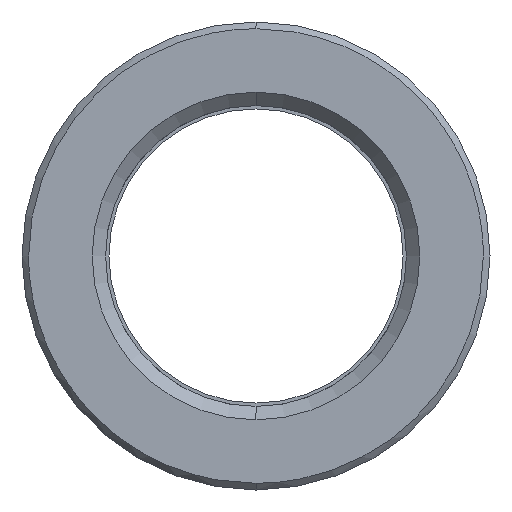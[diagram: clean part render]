
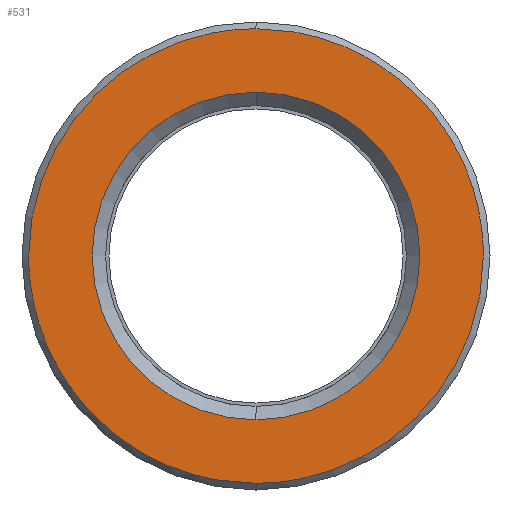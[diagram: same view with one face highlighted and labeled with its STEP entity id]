
A CAD part, left-side view. The second image highlights one B-rep face of the part: STEP entity #531.
In plain terms, the highlighted planar face has unit normal (-1, 0, 0).
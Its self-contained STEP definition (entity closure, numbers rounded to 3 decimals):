
#311=CARTESIAN_POINT('Axis2P3D Location',(0.,0.,0.)) ;
#315=CARTESIAN_POINT('Vertex',(0.,12.25,0.)) ;
#317=CARTESIAN_POINT('Vertex',(0.,0.,12.25)) ;
#320=CARTESIAN_POINT('Axis2P3D Location',(0.,0.,0.)) ;
#324=CARTESIAN_POINT('Vertex',(0.,0.,-12.25)) ;
#351=CARTESIAN_POINT('Axis2P3D Location',(0.,0.,0.)) ;
#355=CARTESIAN_POINT('Vertex',(0.,-12.25,0.)) ;
#358=CARTESIAN_POINT('Axis2P3D Location',(0.,0.,0.)) ;
#438=CARTESIAN_POINT('Axis2P3D Location',(0.,17.,0.)) ;
#444=CARTESIAN_POINT('Control Point',(0.,0.,-17.)) ;
#445=CARTESIAN_POINT('Control Point',(0.,1.123,-17.)) ;
#446=CARTESIAN_POINT('Control Point',(0.,2.246,-16.907)) ;
#447=CARTESIAN_POINT('Control Point',(0.,3.359,-16.722)) ;
#448=CARTESIAN_POINT('Control Point',(0.,6.023,-16.047)) ;
#449=CARTESIAN_POINT('Control Point',(0.,8.508,-14.851)) ;
#450=CARTESIAN_POINT('Control Point',(0.,9.884,-13.974)) ;
#451=CARTESIAN_POINT('Control Point',(0.,12.399,-11.909)) ;
#452=CARTESIAN_POINT('Control Point',(0.,14.361,-9.312)) ;
#453=CARTESIAN_POINT('Control Point',(0.,15.182,-7.903)) ;
#454=CARTESIAN_POINT('Control Point',(0.,16.222,-5.498)) ;
#455=CARTESIAN_POINT('Control Point',(0.,16.786,-2.951)) ;
#456=CARTESIAN_POINT('Control Point',(0.,16.929,-1.972)) ;
#457=CARTESIAN_POINT('Control Point',(0.,17.,-0.986)) ;
#458=CARTESIAN_POINT('Control Point',(0.,17.,0.)) ;
#459=CARTESIAN_POINT('Vertex',(0.,0.,-17.)) ;
#461=CARTESIAN_POINT('Vertex',(0.,17.,0.)) ;
#465=CARTESIAN_POINT('Control Point',(0.,-17.,0.)) ;
#466=CARTESIAN_POINT('Control Point',(0.,-17.,-1.616)) ;
#467=CARTESIAN_POINT('Control Point',(0.,-16.808,-3.232)) ;
#468=CARTESIAN_POINT('Control Point',(0.,-16.424,-4.817)) ;
#469=CARTESIAN_POINT('Control Point',(0.,-15.287,-7.867)) ;
#470=CARTESIAN_POINT('Control Point',(0.,-13.466,-10.565)) ;
#471=CARTESIAN_POINT('Control Point',(0.,-12.399,-11.799)) ;
#472=CARTESIAN_POINT('Control Point',(0.,-9.993,-13.99)) ;
#473=CARTESIAN_POINT('Control Point',(0.,-7.14,-15.556)) ;
#474=CARTESIAN_POINT('Control Point',(0.,-5.626,-16.165)) ;
#475=CARTESIAN_POINT('Control Point',(0.,-3.576,-16.717)) ;
#476=CARTESIAN_POINT('Control Point',(0.,-1.478,-16.946)) ;
#477=CARTESIAN_POINT('Control Point',(0.,-0.986,-16.982)) ;
#478=CARTESIAN_POINT('Control Point',(0.,-0.493,-17.)) ;
#479=CARTESIAN_POINT('Control Point',(0.,0.,-17.)) ;
#480=CARTESIAN_POINT('Vertex',(0.,-17.,0.)) ;
#484=CARTESIAN_POINT('Control Point',(0.,0.,17.)) ;
#485=CARTESIAN_POINT('Control Point',(0.,-1.123,17.)) ;
#486=CARTESIAN_POINT('Control Point',(0.,-2.246,16.907)) ;
#487=CARTESIAN_POINT('Control Point',(0.,-3.359,16.722)) ;
#488=CARTESIAN_POINT('Control Point',(0.,-6.023,16.047)) ;
#489=CARTESIAN_POINT('Control Point',(0.,-8.508,14.851)) ;
#490=CARTESIAN_POINT('Control Point',(0.,-9.884,13.974)) ;
#491=CARTESIAN_POINT('Control Point',(0.,-12.399,11.909)) ;
#492=CARTESIAN_POINT('Control Point',(0.,-14.361,9.312)) ;
#493=CARTESIAN_POINT('Control Point',(0.,-15.182,7.903)) ;
#494=CARTESIAN_POINT('Control Point',(0.,-16.222,5.498)) ;
#495=CARTESIAN_POINT('Control Point',(0.,-16.786,2.951)) ;
#496=CARTESIAN_POINT('Control Point',(0.,-16.929,1.972)) ;
#497=CARTESIAN_POINT('Control Point',(0.,-17.,0.986)) ;
#498=CARTESIAN_POINT('Control Point',(0.,-17.,0.)) ;
#499=CARTESIAN_POINT('Vertex',(0.,0.,17.)) ;
#503=CARTESIAN_POINT('Control Point',(0.,17.,0.)) ;
#504=CARTESIAN_POINT('Control Point',(0.,17.,1.616)) ;
#505=CARTESIAN_POINT('Control Point',(0.,16.808,3.232)) ;
#506=CARTESIAN_POINT('Control Point',(0.,16.424,4.817)) ;
#507=CARTESIAN_POINT('Control Point',(0.,15.287,7.867)) ;
#508=CARTESIAN_POINT('Control Point',(0.,13.466,10.565)) ;
#509=CARTESIAN_POINT('Control Point',(0.,12.399,11.799)) ;
#510=CARTESIAN_POINT('Control Point',(0.,9.993,13.99)) ;
#511=CARTESIAN_POINT('Control Point',(0.,7.14,15.556)) ;
#512=CARTESIAN_POINT('Control Point',(0.,5.626,16.165)) ;
#513=CARTESIAN_POINT('Control Point',(0.,3.576,16.717)) ;
#514=CARTESIAN_POINT('Control Point',(0.,1.478,16.946)) ;
#515=CARTESIAN_POINT('Control Point',(0.,0.986,16.982)) ;
#516=CARTESIAN_POINT('Control Point',(0.,0.493,17.)) ;
#517=CARTESIAN_POINT('Control Point',(0.,0.,17.)) ;
#312=DIRECTION('Axis2P3D Direction',(-1.,0.,0.)) ;
#321=DIRECTION('Axis2P3D Direction',(-1.,0.,0.)) ;
#352=DIRECTION('Axis2P3D Direction',(-1.,0.,0.)) ;
#359=DIRECTION('Axis2P3D Direction',(-1.,0.,0.)) ;
#439=DIRECTION('Axis2P3D Direction',(-1.,0.,0.)) ;
#440=DIRECTION('Axis2P3D XDirection',(0.,0.,1.)) ;
#313=AXIS2_PLACEMENT_3D('Circle Axis2P3D',#311,#312,$) ;
#322=AXIS2_PLACEMENT_3D('Circle Axis2P3D',#320,#321,$) ;
#353=AXIS2_PLACEMENT_3D('Circle Axis2P3D',#351,#352,$) ;
#360=AXIS2_PLACEMENT_3D('Circle Axis2P3D',#358,#359,$) ;
#441=AXIS2_PLACEMENT_3D('Plane Axis2P3D',#438,#439,#440) ;
#520=ORIENTED_EDGE('',*,*,#463,.F.) ;
#521=ORIENTED_EDGE('',*,*,#482,.F.) ;
#522=ORIENTED_EDGE('',*,*,#501,.F.) ;
#523=ORIENTED_EDGE('',*,*,#518,.F.) ;
#526=ORIENTED_EDGE('',*,*,#319,.T.) ;
#527=ORIENTED_EDGE('',*,*,#362,.T.) ;
#528=ORIENTED_EDGE('',*,*,#357,.T.) ;
#529=ORIENTED_EDGE('',*,*,#326,.T.) ;
#530=FACE_BOUND('',#525,.T.) ;
#531=ADVANCED_FACE('553-22X116',(#524,#530),#442,.T.) ;
#443=B_SPLINE_CURVE_WITH_KNOTS('',5,(#444,#445,#446,#447,#448,#449,#450,#451,#452,#453,#454,#455,#456,#457,#458),.UNSPECIFIED.,.F.,.U.,(6,3,3,3,6),(37.764,45.705,57.131,68.557,75.528),.UNSPECIFIED.) ;
#464=B_SPLINE_CURVE_WITH_KNOTS('',5,(#465,#466,#467,#468,#469,#470,#471,#472,#473,#474,#475,#476,#477,#478,#479),.UNSPECIFIED.,.F.,.U.,(6,3,3,3,6),(0.,11.426,22.852,34.279,37.764),.UNSPECIFIED.) ;
#483=B_SPLINE_CURVE_WITH_KNOTS('',5,(#484,#485,#486,#487,#488,#489,#490,#491,#492,#493,#494,#495,#496,#497,#498),.UNSPECIFIED.,.F.,.U.,(6,3,3,3,6),(37.764,45.705,57.131,68.557,75.528),.UNSPECIFIED.) ;
#502=B_SPLINE_CURVE_WITH_KNOTS('',5,(#503,#504,#505,#506,#507,#508,#509,#510,#511,#512,#513,#514,#515,#516,#517),.UNSPECIFIED.,.F.,.U.,(6,3,3,3,6),(0.,11.426,22.852,34.279,37.764),.UNSPECIFIED.) ;
#314=CIRCLE('generated circle',#313,12.25) ;
#323=CIRCLE('generated circle',#322,12.25) ;
#354=CIRCLE('generated circle',#353,12.25) ;
#361=CIRCLE('generated circle',#360,12.25) ;
#319=EDGE_CURVE('',#316,#318,#314,.F.) ;
#326=EDGE_CURVE('',#325,#316,#323,.F.) ;
#357=EDGE_CURVE('',#356,#325,#354,.F.) ;
#362=EDGE_CURVE('',#318,#356,#361,.F.) ;
#463=EDGE_CURVE('',#460,#462,#443,.T.) ;
#482=EDGE_CURVE('',#481,#460,#464,.T.) ;
#501=EDGE_CURVE('',#500,#481,#483,.T.) ;
#518=EDGE_CURVE('',#462,#500,#502,.T.) ;
#519=EDGE_LOOP('',(#520,#521,#522,#523)) ;
#525=EDGE_LOOP('',(#526,#527,#528,#529)) ;
#524=FACE_OUTER_BOUND('',#519,.T.) ;
#442=PLANE('Plane',#441) ;
#316=VERTEX_POINT('',#315) ;
#318=VERTEX_POINT('',#317) ;
#325=VERTEX_POINT('',#324) ;
#356=VERTEX_POINT('',#355) ;
#460=VERTEX_POINT('',#459) ;
#462=VERTEX_POINT('',#461) ;
#481=VERTEX_POINT('',#480) ;
#500=VERTEX_POINT('',#499) ;
